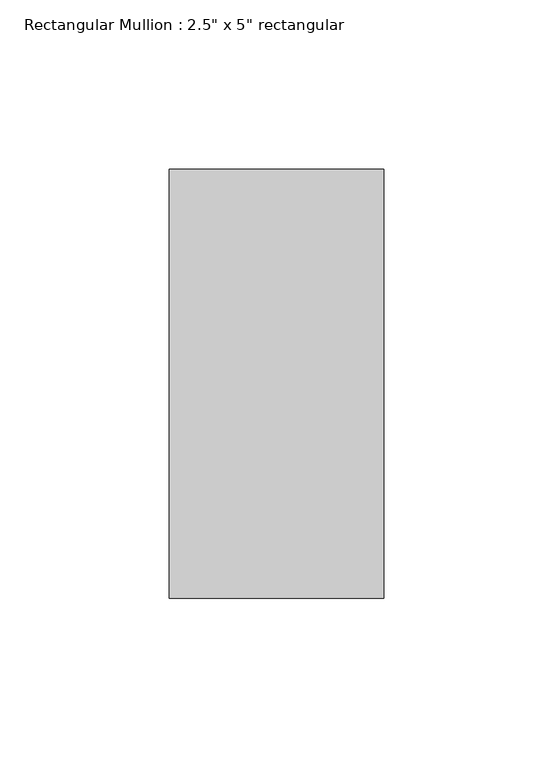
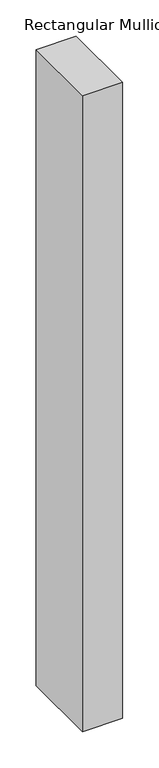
"""IFC4 building model written with IfcOpenShell, lengths in millimetres: member geometry."""

from ifc_helpers import new_model, si_unit, frame, origin, place, context, project, spatial, polyline, outline, extrude, source, transform, mapped, element, save


def member_c4de40ee(model_context):
    return source(origin(), model_context, "Body", "SweptSolid", [
        extrude(outline(polyline([(0.0, 63.5), (0.0, -63.5), (-63.5, -63.5), (-63.5, 63.5), (0.0, 63.5)])), frame((0.0, 0.0, -1066.8), z_axis=(0.0, 0.0, 1.0), x_axis=(1.0, 0.0, 0.0)), (0.0, 0.0, 1.0), 1066.8),
    ])


if __name__ == "__main__":
    model = new_model("IFC4")
    model_context = context("Model", 3, world=origin())
    ifc_project = project(units=[si_unit("LENGTHUNIT", "METRE", prefix="MILLI")], contexts=[model_context])
    site = spatial("IfcSite", under=ifc_project)
    building = spatial("IfcBuilding", under=site)
    placement = place(None, origin())
    member_shape = member_c4de40ee(model_context)
    element("IfcMember", 1, ObjectType="Rectangular Mullion : 2.5\" x 5\" rectangular", at=placement, inside=building, context=model_context, shape_type="MappedRepresentation", body=[
        mapped(member_shape, transform((0.0, 0.0, 0.0), x_axis=(1.0, 0.0, 0.0), y_axis=(0.0, 1.0, 0.0), z_axis=(0.0, 0.0, 1.0))),
    ])
    save(model, "model.ifc")
